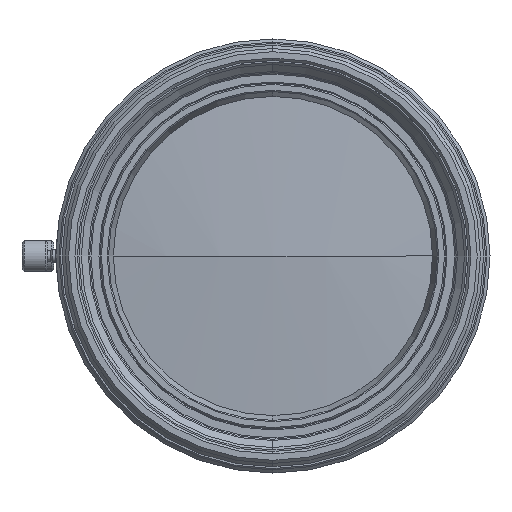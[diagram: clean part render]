
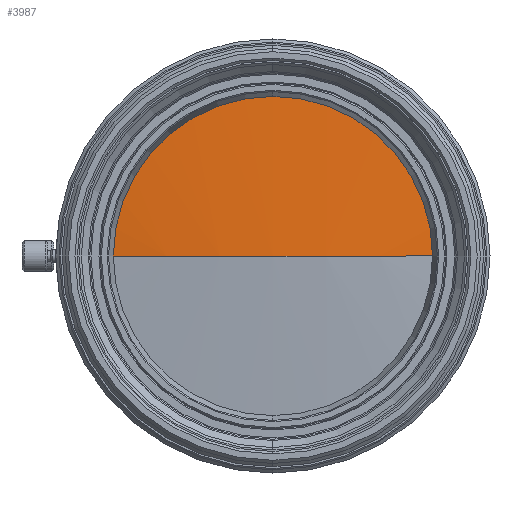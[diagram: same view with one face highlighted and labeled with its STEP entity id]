
A CAD part, left-side view. The second image highlights one B-rep face of the part: STEP entity #3987.
In plain terms, the highlighted spherical face has radius 222.5 mm.
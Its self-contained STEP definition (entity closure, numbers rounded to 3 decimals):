
#367 = CARTESIAN_POINT ( 'NONE',  ( 1.843, 0., 0. ) ) ;
#383 = AXIS2_PLACEMENT_3D ( 'NONE', #3087, #4291, #4729 ) ;
#459 = VERTEX_POINT ( 'NONE', #3724 ) ;
#511 = ORIENTED_EDGE ( 'NONE', *, *, #4675, .T. ) ;
#551 = AXIS2_PLACEMENT_3D ( 'NONE', #2028, #2002, #2715 ) ;
#572 = CARTESIAN_POINT ( 'NONE',  ( -219.248, -25., 0. ) ) ;
#585 = DIRECTION ( 'NONE',  ( 1., 0., 0. ) ) ;
#684 = VERTEX_POINT ( 'NONE', #3034 ) ;
#788 = FACE_OUTER_BOUND ( 'NONE', #4414, .T. ) ;
#1012 = CARTESIAN_POINT ( 'NONE',  ( -220.657, 0., 0. ) ) ;
#1108 = DIRECTION ( 'NONE',  ( 0., 1., 0. ) ) ;
#1446 = ORIENTED_EDGE ( 'NONE', *, *, #4834, .F. ) ;
#1469 = VERTEX_POINT ( 'NONE', #572 ) ;
#1613 = AXIS2_PLACEMENT_3D ( 'NONE', #2595, #3455, #4626 ) ;
#2002 = DIRECTION ( 'NONE',  ( 1., 0., 0. ) ) ;
#2015 = VERTEX_POINT ( 'NONE', #1012 ) ;
#2028 = CARTESIAN_POINT ( 'NONE',  ( -219.248, 0., 0. ) ) ;
#2411 = EDGE_CURVE ( 'NONE', #684, #1469, #3905, .T. ) ;
#2565 = EDGE_CURVE ( 'NONE', #459, #684, #3651, .T. ) ;
#2595 = CARTESIAN_POINT ( 'NONE',  ( 1.843, 0., 0. ) ) ;
#2715 = DIRECTION ( 'NONE',  ( 0., 0., -1. ) ) ;
#2895 = AXIS2_PLACEMENT_3D ( 'NONE', #5062, #585, #3501 ) ;
#3034 = CARTESIAN_POINT ( 'NONE',  ( -219.248, 0., 25. ) ) ;
#3087 = CARTESIAN_POINT ( 'NONE',  ( 1.843, 0., 0. ) ) ;
#3197 = DIRECTION ( 'NONE',  ( 0., 0., 1. ) ) ;
#3455 = DIRECTION ( 'NONE',  ( 0., 0., 1. ) ) ;
#3501 = DIRECTION ( 'NONE',  ( 0., 0., -1. ) ) ;
#3535 = CIRCLE ( 'NONE', #1613, 222.5 ) ;
#3651 = CIRCLE ( 'NONE', #551, 25. ) ;
#3724 = CARTESIAN_POINT ( 'NONE',  ( -219.248, 25., 0. ) ) ;
#3779 = AXIS2_PLACEMENT_3D ( 'NONE', #367, #3197, #1108 ) ;
#3788 = CIRCLE ( 'NONE', #383, 222.5 ) ;
#3905 = CIRCLE ( 'NONE', #2895, 25. ) ;
#3946 = ORIENTED_EDGE ( 'NONE', *, *, #2565, .F. ) ;
#3987 = ADVANCED_FACE ( 'NONE', ( #788 ), #4714, .T. ) ;
#4291 = DIRECTION ( 'NONE',  ( 0., 0., -1. ) ) ;
#4414 = EDGE_LOOP ( 'NONE', ( #1446, #511, #5111, #3946 ) ) ;
#4626 = DIRECTION ( 'NONE',  ( 0., -1., 0. ) ) ;
#4675 = EDGE_CURVE ( 'NONE', #2015, #1469, #3535, .T. ) ;
#4714 = SPHERICAL_SURFACE ( 'NONE', #3779, 222.5 ) ;
#4729 = DIRECTION ( 'NONE',  ( -1., 0., 0. ) ) ;
#4834 = EDGE_CURVE ( 'NONE', #2015, #459, #3788, .T. ) ;
#5062 = CARTESIAN_POINT ( 'NONE',  ( -219.248, 0., 0. ) ) ;
#5111 = ORIENTED_EDGE ( 'NONE', *, *, #2411, .F. ) ;
